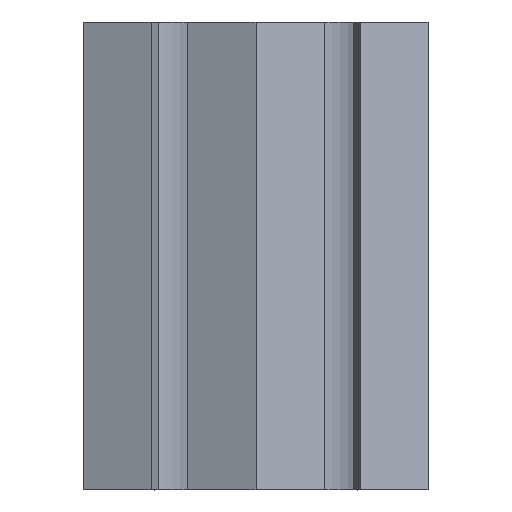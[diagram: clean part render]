
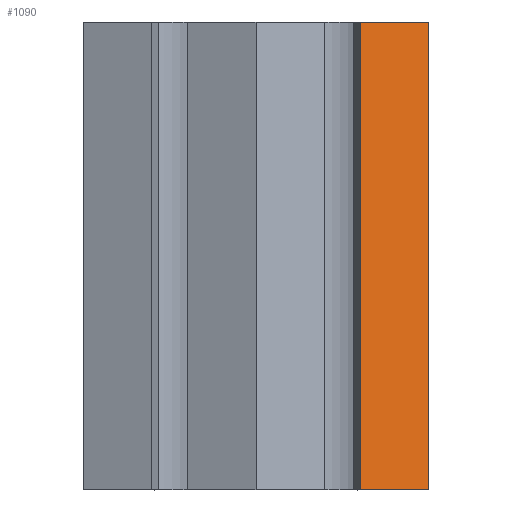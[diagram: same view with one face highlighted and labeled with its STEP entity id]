
A CAD part, top view. The second image highlights one B-rep face of the part: STEP entity #1090.
In plain terms, the highlighted planar face has unit normal (0.383, 0, 0.924).
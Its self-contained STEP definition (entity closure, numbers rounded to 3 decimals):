
#66=LINE('',#1622,#196);
#82=LINE('',#1683,#212);
#115=LINE('',#1760,#245);
#118=LINE('',#1765,#248);
#196=VECTOR('',#1291,1000.);
#212=VECTOR('',#1337,1000.);
#245=VECTOR('',#1384,1000.);
#248=VECTOR('',#1391,1000.);
#410=ORIENTED_EDGE('',*,*,#650,.F.);
#411=ORIENTED_EDGE('',*,*,#722,.T.);
#412=ORIENTED_EDGE('',*,*,#680,.T.);
#413=ORIENTED_EDGE('',*,*,#719,.T.);
#650=EDGE_CURVE('',#808,#809,#66,.T.);
#680=EDGE_CURVE('',#839,#838,#82,.T.);
#719=EDGE_CURVE('',#838,#809,#115,.T.);
#722=EDGE_CURVE('',#808,#839,#118,.T.);
#808=VERTEX_POINT('',#1621);
#809=VERTEX_POINT('',#1623);
#838=VERTEX_POINT('',#1682);
#839=VERTEX_POINT('',#1684);
#918=EDGE_LOOP('',(#410,#411,#412,#413));
#988=FACE_BOUND('',#918,.T.);
#1048=PLANE('',#1187);
#1090=ADVANCED_FACE('',(#988),#1048,.T.);
#1187=AXIS2_PLACEMENT_3D('',#1764,#1389,#1390);
#1291=DIRECTION('',(0.924,0.,-0.383));
#1337=DIRECTION('',(0.924,0.,-0.383));
#1384=DIRECTION('',(0.,1.,0.));
#1389=DIRECTION('',(0.383,0.,0.924));
#1390=DIRECTION('',(0.924,0.,-0.383));
#1391=DIRECTION('',(0.,-1.,0.));
#1621=CARTESIAN_POINT('',(22.358,50.,34.035));
#1622=CARTESIAN_POINT('',(0.,50.,43.296));
#1623=CARTESIAN_POINT('',(36.955,50.,27.988));
#1682=CARTESIAN_POINT('',(36.955,-50.,27.988));
#1683=CARTESIAN_POINT('',(0.,-50.,43.296));
#1684=CARTESIAN_POINT('',(22.358,-50.,34.035));
#1760=CARTESIAN_POINT('',(36.955,-50.,27.988));
#1764=CARTESIAN_POINT('',(0.,-50.,43.296));
#1765=CARTESIAN_POINT('',(22.358,-50.,34.035));
